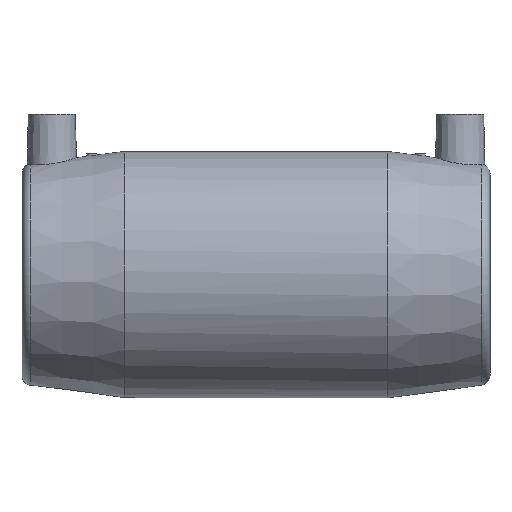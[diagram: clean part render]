
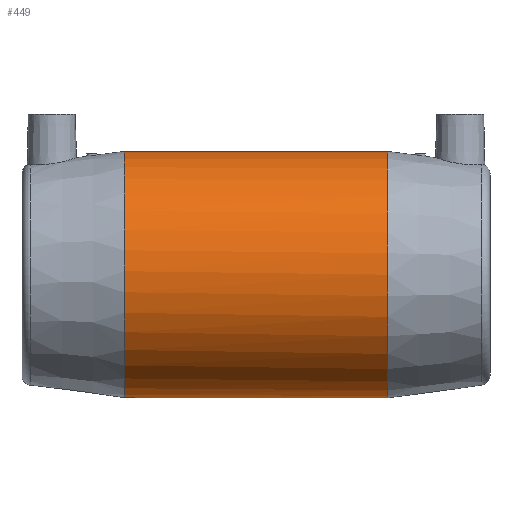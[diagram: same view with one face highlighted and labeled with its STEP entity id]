
A CAD part, front view. The second image highlights one B-rep face of the part: STEP entity #449.
In plain terms, the highlighted cylindrical face has radius 49.5 mm (diameter 99 mm), a full revolution.
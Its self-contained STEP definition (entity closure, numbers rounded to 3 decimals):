
#71=B_SPLINE_CURVE_WITH_KNOTS('',3,(#1077,#1078,#1079,#1080,#1081,#1082,
#1083,#1084,#1085,#1086,#1087,#1088,#1089,#1090,#1091,#1092,#1093,#1094,
#1095,#1096,#1097,#1098,#1099,#1100,#1101,#1102,#1103,#1104,#1105,#1106,
#1107,#1108,#1109,#1110,#1111,#1112,#1113,#1114,#1115,#1116,#1117,#1118,
#1119,#1120,#1121,#1122,#1123,#1124,#1125,#1126,#1127,#1128,#1129,#1130,
#1131,#1132,#1133,#1134,#1135),.UNSPECIFIED.,.T.,.F.,(1,1,1,1,1,1,1,1,1,
1,1,1,1,1,1,1,1,1,1,1,1,1,1,1,1,1,1,1,1,1,1,1,1,1,1,1,1,1,1,1,1,1,1,1,1,
1,1,1,1,1,1,1,1,1,1,1,1,1,1,1,1,1,1),(-0.013,-0.008,
-0.004,0.,0.004,0.008,0.017,
0.021,0.025,0.033,0.042,
0.046,0.05,0.054,0.059,
0.063,0.067,0.071,0.075,
0.084,0.088,0.092,0.096,
0.1,0.105,0.109,0.113,
0.117,0.121,0.125,0.13,
0.134,0.138,0.142,0.146,
0.151,0.155,0.159,0.167,0.176,
0.18,0.184,0.188,0.192,
0.197,0.201,0.205,0.209,
0.218,0.222,0.226,0.234,
0.238,0.243,0.247,0.251,
0.255,0.259,0.264,0.268,
0.272,0.276,0.284),.UNSPECIFIED.);
#127=ORIENTED_EDGE('',*,*,#193,.T.);
#128=ORIENTED_EDGE('',*,*,#192,.F.);
#129=ORIENTED_EDGE('',*,*,#197,.T.);
#192=EDGE_CURVE('',#237,#237,#270,.T.);
#193=EDGE_CURVE('',#238,#238,#71,.T.);
#197=EDGE_CURVE('',#242,#242,#273,.T.);
#237=VERTEX_POINT('',#899);
#238=VERTEX_POINT('',#1136);
#242=VERTEX_POINT('',#1153);
#270=CIRCLE('',#513,49.5);
#273=CIRCLE('',#519,49.5);
#325=EDGE_LOOP('',(#127));
#326=EDGE_LOOP('',(#128));
#327=EDGE_LOOP('',(#129));
#393=FACE_BOUND('',#325,.T.);
#394=FACE_BOUND('',#326,.T.);
#395=FACE_BOUND('',#327,.T.);
#423=CYLINDRICAL_SURFACE('',#518,49.5);
#449=ADVANCED_FACE('',(#393,#394,#395),#423,.T.);
#513=AXIS2_PLACEMENT_3D('',#898,#617,#618);
#518=AXIS2_PLACEMENT_3D('',#1151,#627,#628);
#519=AXIS2_PLACEMENT_3D('',#1152,#629,#630);
#617=DIRECTION('',(-1.,0.,0.));
#618=DIRECTION('',(0.,0.,1.));
#627=DIRECTION('',(-1.,0.,0.));
#628=DIRECTION('',(0.,0.,1.));
#629=DIRECTION('',(-1.,0.,0.));
#630=DIRECTION('',(0.,0.,1.));
#898=CARTESIAN_POINT('',(-53.,0.,0.));
#899=CARTESIAN_POINT('',(-53.,0.,49.5));
#1077=CARTESIAN_POINT('',(40.347,49.38,-4.221));
#1078=CARTESIAN_POINT('',(40.576,49.56,0.009));
#1079=CARTESIAN_POINT('',(40.35,49.382,4.185));
#1080=CARTESIAN_POINT('',(39.452,48.678,9.689));
#1081=CARTESIAN_POINT('',(37.746,47.354,14.811));
#1082=CARTESIAN_POINT('',(35.334,45.534,19.531));
#1083=CARTESIAN_POINT('',(32.553,43.484,23.857));
#1084=CARTESIAN_POINT('',(28.365,40.528,28.657));
#1085=CARTESIAN_POINT('',(23.51,37.423,32.489));
#1086=CARTESIAN_POINT('',(19.159,34.992,35.041));
#1087=CARTESIAN_POINT('',(15.727,33.299,36.646));
#1088=CARTESIAN_POINT('',(12.08,31.789,37.958));
#1089=CARTESIAN_POINT('',(8.168,30.557,38.95));
#1090=CARTESIAN_POINT('',(4.142,29.755,39.56));
#1091=CARTESIAN_POINT('',(-0.082,29.473,39.769));
#1092=CARTESIAN_POINT('',(-4.207,29.765,39.553));
#1093=CARTESIAN_POINT('',(-9.666,30.867,38.712));
#1094=CARTESIAN_POINT('',(-14.641,32.759,37.162));
#1095=CARTESIAN_POINT('',(-19.268,35.049,34.984));
#1096=CARTESIAN_POINT('',(-22.481,36.85,33.088));
#1097=CARTESIAN_POINT('',(-25.489,38.691,30.922));
#1098=CARTESIAN_POINT('',(-28.306,40.532,28.474));
#1099=CARTESIAN_POINT('',(-30.921,42.332,25.73));
#1100=CARTESIAN_POINT('',(-33.255,44.002,22.762));
#1101=CARTESIAN_POINT('',(-35.326,45.528,19.541));
#1102=CARTESIAN_POINT('',(-37.121,46.882,16.042));
#1103=CARTESIAN_POINT('',(-38.595,48.013,12.257));
#1104=CARTESIAN_POINT('',(-39.669,48.848,8.346));
#1105=CARTESIAN_POINT('',(-40.346,49.379,4.223));
#1106=CARTESIAN_POINT('',(-40.574,49.558,0.047));
#1107=CARTESIAN_POINT('',(-40.357,49.387,-4.122));
#1108=CARTESIAN_POINT('',(-39.69,48.864,-8.251));
#1109=CARTESIAN_POINT('',(-38.626,48.038,-12.158));
#1110=CARTESIAN_POINT('',(-37.178,46.925,-15.914));
#1111=CARTESIAN_POINT('',(-35.374,45.564,-19.461));
#1112=CARTESIAN_POINT('',(-32.601,43.519,-23.793));
#1113=CARTESIAN_POINT('',(-28.415,40.562,-28.61));
#1114=CARTESIAN_POINT('',(-23.566,37.457,-32.45));
#1115=CARTESIAN_POINT('',(-19.213,35.02,-35.013));
#1116=CARTESIAN_POINT('',(-15.776,33.322,-36.626));
#1117=CARTESIAN_POINT('',(-12.132,31.808,-37.942));
#1118=CARTESIAN_POINT('',(-8.217,30.569,-38.94));
#1119=CARTESIAN_POINT('',(-4.189,29.762,-39.555));
#1120=CARTESIAN_POINT('',(0.038,29.473,-39.769));
#1121=CARTESIAN_POINT('',(4.17,29.76,-39.557));
#1122=CARTESIAN_POINT('',(9.634,30.857,-38.72));
#1123=CARTESIAN_POINT('',(14.617,32.748,-37.172));
#1124=CARTESIAN_POINT('',(19.251,35.04,-34.994));
#1125=CARTESIAN_POINT('',(23.542,37.444,-32.462));
#1126=CARTESIAN_POINT('',(27.423,39.926,-29.398));
#1127=CARTESIAN_POINT('',(30.918,42.33,-25.733));
#1128=CARTESIAN_POINT('',(33.256,44.003,-22.761));
#1129=CARTESIAN_POINT('',(35.328,45.53,-19.537));
#1130=CARTESIAN_POINT('',(37.12,46.881,-16.043));
#1131=CARTESIAN_POINT('',(38.598,48.016,-12.25));
#1132=CARTESIAN_POINT('',(39.672,48.851,-8.329));
#1133=CARTESIAN_POINT('',(40.347,49.38,-4.221));
#1134=CARTESIAN_POINT('',(40.576,49.56,0.009));
#1135=CARTESIAN_POINT('',(40.35,49.382,4.185));
#1136=CARTESIAN_POINT('',(40.5,49.5,0.));
#1151=CARTESIAN_POINT('',(-60.,0.,0.));
#1152=CARTESIAN_POINT('',(53.,0.,0.));
#1153=CARTESIAN_POINT('',(53.,0.,49.5));
